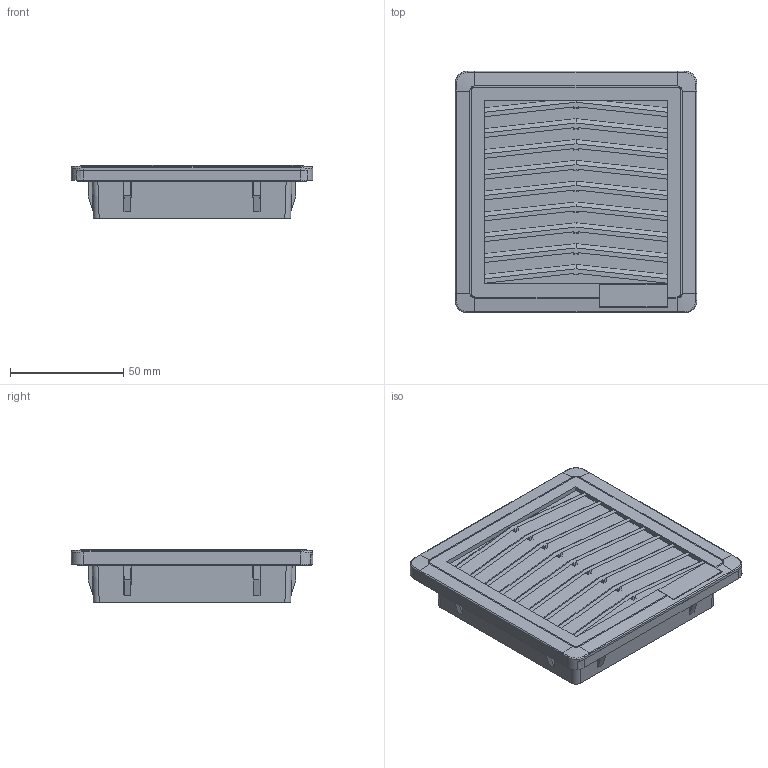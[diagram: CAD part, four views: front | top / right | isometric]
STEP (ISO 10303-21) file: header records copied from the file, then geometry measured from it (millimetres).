
FILE_DESCRIPTION(/* description */ (''),/* implementation_level */ '2;1');
FILE_NAME(/* name */ 'FF08y',/* time_stamp */ '2025-10-30T11:43:38+01:00',/* author */ (''),/* organization */ (''),/* preprocessor_version */ 'ST-DEVELOPER v16.5',/* originating_system */ 'Rhino 7.38',/* authorisation */ '');
FILE_SCHEMA (('AUTOMOTIVE_DESIGN'));
Length unit declared in the file: millimetre
Products named in the file (5): Document; FF08y; DT-04082DSI_mostrina semplificata; FF08BGJ-xxxx_base semplificata; DT-00242DSI_Coperchio semplificato
Assembly tree (4 placements, depth 3):
  Document
    FF08y
      DT-04082DSI_mostrina semplificata
      FF08BGJ-xxxx_base semplificata
      DT-00242DSI_Coperchio semplificato
Bounding box: 106.6 x 106.54 x 23.4 mm (x, y, z)
Volume: 224686.8 mm3; surface area: 57939.3 mm2
Topology: 3 solids, 3 shells, 207 faces, 576 edges, 376 vertices
Faces by surface type: plane 164, bspline 22, cylinder 21
Entity records: 6833 total; most frequent: CARTESIAN_POINT 2731, ORIENTED_EDGE 1152, EDGE_CURVE 576, B_SPLINE_CURVE_WITH_KNOTS 514, VERTEX_POINT 376, DIRECTION 209, EDGE_LOOP 208, ADVANCED_FACE 207
